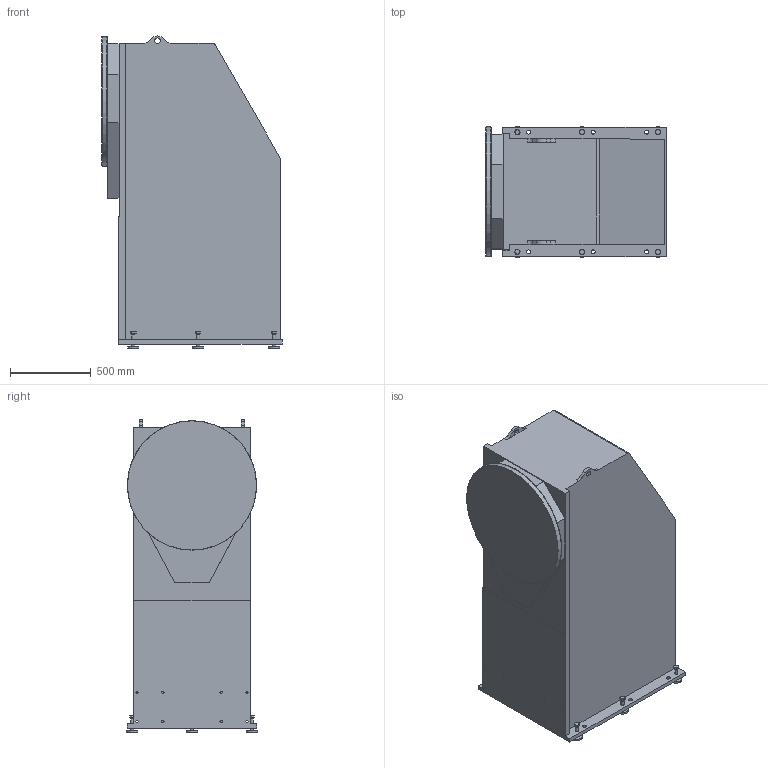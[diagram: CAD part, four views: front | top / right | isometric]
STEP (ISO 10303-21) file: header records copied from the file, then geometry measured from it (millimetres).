
FILE_DESCRIPTION((''),'2;1');
FILE_NAME('S:\Manipulatorer\Produkter\Layout symboler\HSB\114856-102 HSB-2000 SN (STEP).stp','2008-01-18T10:56:23',('Kristian'),(''),'Autodesk Inventor 2008','Autodesk Inventor 2008','');
FILE_SCHEMA(('AUTOMOTIVE_DESIGN { 1 0 10303 214 1 1 1 1 }'));
Length unit declared in the file: millimetre
Products named in the file (2): 114856- HSB-2000 SN (iAssy) (No details); 114856-102 HSB-2000 SN (low-res)
Assembly tree (1 placements, depth 2):
  114856- HSB-2000 SN (iAssy) (No details)
    114856-102 HSB-2000 SN (low-res)
Bounding box: 1114 x 810 x 1929.75 mm (x, y, z)
Volume: 1177351313.6 mm3; surface area: 8057283.3 mm2
Topology: 10 solids, 10 shells, 229 faces, 496 edges, 328 vertices
Faces by surface type: plane 125, cylinder 41, bspline 36, cone 27
Full cylindrical faces by diameter (mm): 20 x19, 28.19 x6, 70 x7, 798 x1, 800 x1
Entity records: 6328 total; most frequent: CARTESIAN_POINT 1536, DIRECTION 900, ORIENTED_EDGE 786, EDGE_CURVE 393, EDGE_LOOP 370, AXIS2_PLACEMENT_3D 359, VERTEX_POINT 301, FACE_OUTER_BOUND 229
